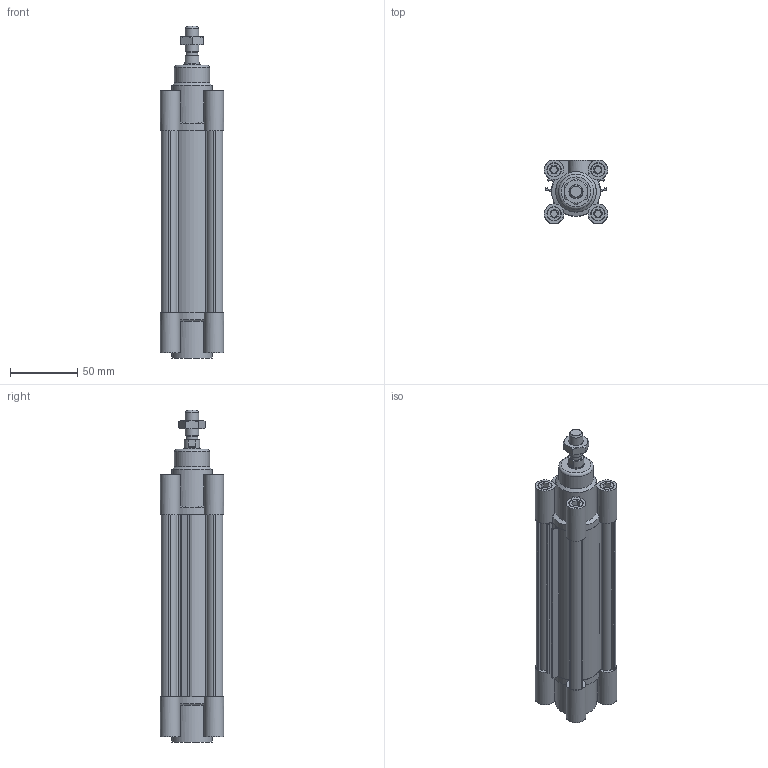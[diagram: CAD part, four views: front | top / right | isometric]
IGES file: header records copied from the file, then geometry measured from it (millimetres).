
Global section: file name: No Iges File Name specified; native system: Autodesk Inventor 2012; preprocessor: AutoDesk Inventor Iges Exporter R2012; author: pilonfr1; date: 20120128.095014; units: millimetre
Bounding box: 47 x 47 x 246 mm (x, y, z)
Volume: 219199.3 mm3; surface area: 105913.6 mm2
Topology: 5 solids, 5 shells, 316 faces, 788 edges, 522 vertices
Faces by surface type: plane 200, cylinder 54, revolution 39, cone 22, torus 1
Full cylindrical faces by diameter (mm): 8.8 x1, 10 x9, 11.5 x1, 12 x1, 26 x1, 30 x2, 32 x3
